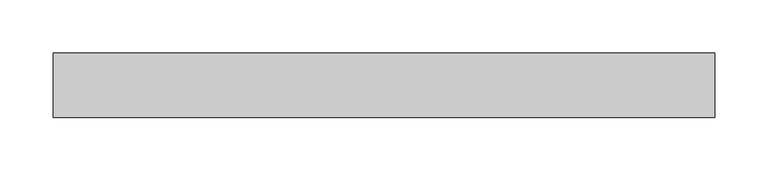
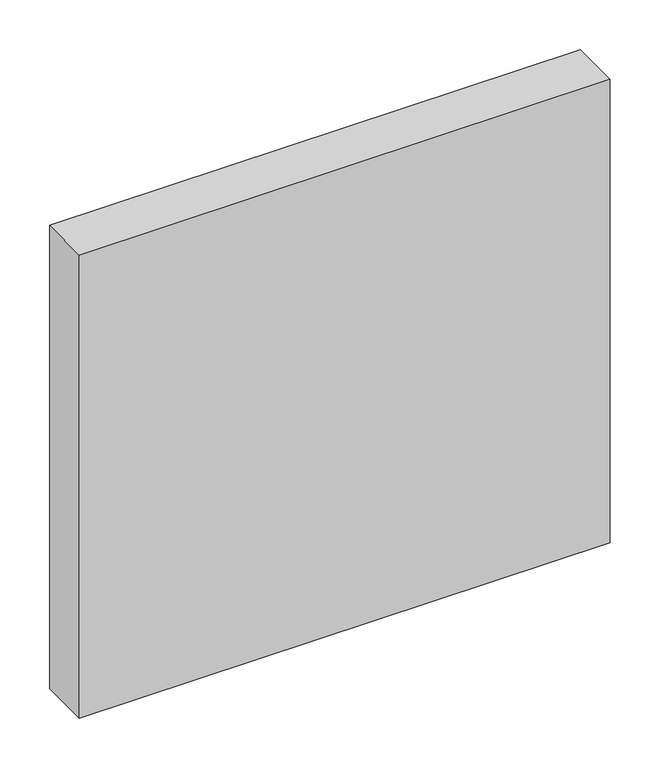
"""IFC4 building model written with IfcOpenShell, lengths in millimetres: plate geometry, Системная панель : Алюкобонд серый."""

from ifc_helpers import new_model, si_unit, origin, origin_with_axes, place, context, project, spatial, polyline, outline, extrude, source, transform, mapped, element, save


def plate_f36c7b55(model_context):
    return source(origin(), model_context, "Body", "SweptSolid", [
        extrude(outline(polyline([(309.0, -10.5), (-309.0, -10.5), (-309.0, 49.5), (309.0, 49.5), (309.0, -10.5)])), origin_with_axes(), (0.0, 0.0, 1.0), 570.0),
    ])


if __name__ == "__main__":
    model = new_model("IFC4")
    model_context = context("Model", 3, world=origin())
    ifc_project = project(units=[si_unit("LENGTHUNIT", "METRE", prefix="MILLI")], contexts=[model_context])
    site = spatial("IfcSite", under=ifc_project)
    building = spatial("IfcBuilding", under=site)
    placement = place(None, origin())
    plate_shape = plate_f36c7b55(model_context)
    element("IfcPlate", 1, ObjectType="Системная панель : Алюкобонд серый", at=placement, inside=building, context=model_context, shape_type="MappedRepresentation", body=[
        mapped(plate_shape, transform((0.0, 0.0, 0.0), x_axis=(1.0, 0.0, 0.0), y_axis=(0.0, 1.0, 0.0), z_axis=(0.0, 0.0, 1.0))),
    ])
    save(model, "model.ifc")
